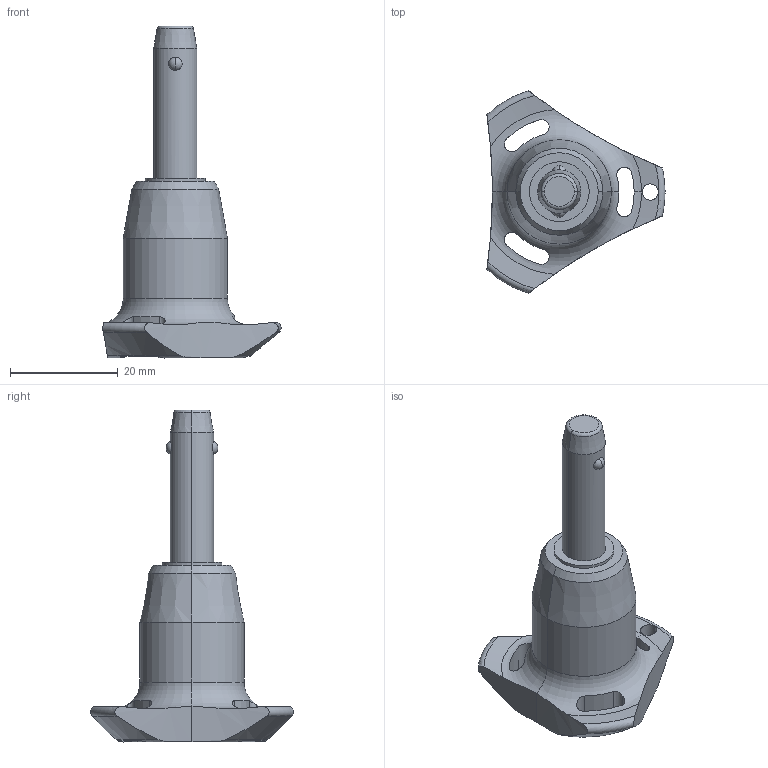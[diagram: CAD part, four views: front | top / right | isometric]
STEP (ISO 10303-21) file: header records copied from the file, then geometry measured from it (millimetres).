
FILE_DESCRIPTION (( 'STEP AP203' ), '1' );
FILE_NAME ('QR1714.M08-020-S.step', '2025-11-12T10:01:49', ( '' ), ( '' ), 'SwSTEP 2.0', 'SolidWorks 2019', '' );
FILE_SCHEMA (( 'CONFIG_CONTROL_DESIGN' ));
Length unit declared in the file: millimetre
Products named in the file (1): QR1714.M08-020-S
Bounding box: 33 x 37.51 x 61.5 mm (x, y, z)
Volume: 11655.5 mm3; surface area: 4557.2 mm2
Topology: 1 solids, 1 shells, 65 faces, 174 edges, 109 vertices
Faces by surface type: cylinder 30, cone 14, torus 11, sphere 6, plane 4
Entity records: 2746 total; most frequent: CARTESIAN_POINT 1073, ORIENTED_EDGE 348, DIRECTION 331, EDGE_CURVE 174, AXIS2_PLACEMENT_3D 147, VERTEX_POINT 109, CIRCLE 81, EDGE_LOOP 71
